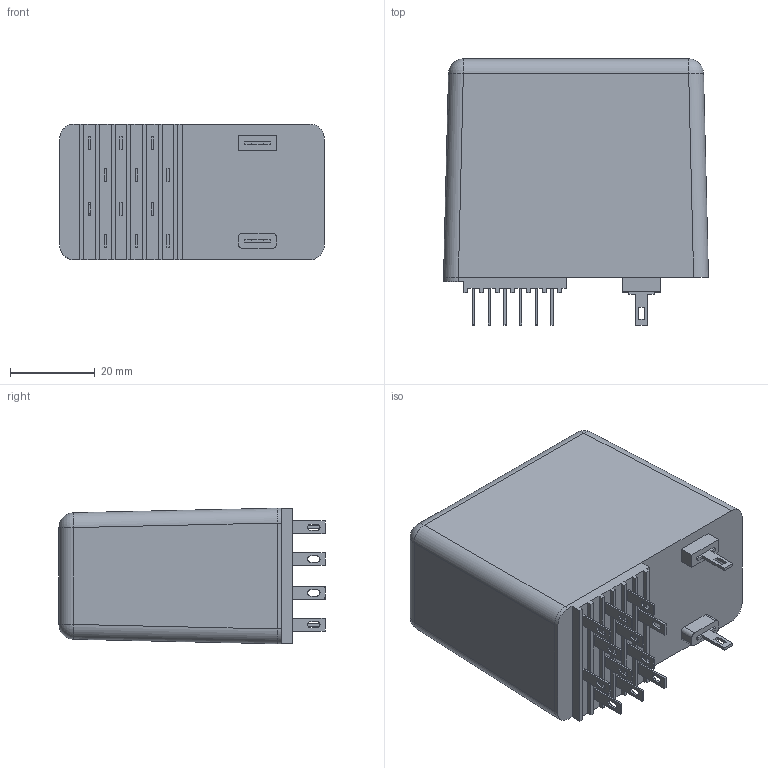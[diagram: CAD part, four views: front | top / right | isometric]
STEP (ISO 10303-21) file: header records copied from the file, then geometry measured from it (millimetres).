
FILE_DESCRIPTION (( 'STEP AP203' ), '1' );
FILE_NAME ('EO4RC3.STEP', '2019-07-05T17:40:55', ( '' ), ( '' ), 'SwSTEP 2.0', 'SolidWorks 2012', '' );
FILE_SCHEMA (( 'CONFIG_CONTROL_DESIGN' ));
Length unit declared in the file: millimetre
Products named in the file (1): EO4RC3
Bounding box: 62.5 x 62.8 x 32 mm (x, y, z)
Volume: 99124.1 mm3; surface area: 14413.6 mm2
Topology: 1 solids, 1 shells, 203 faces, 541 edges, 352 vertices
Faces by surface type: plane 159, cylinder 38, sphere 4, bspline 2
Entity records: 6338 total; most frequent: CARTESIAN_POINT 1125, ORIENTED_EDGE 1074, DIRECTION 1007, EDGE_CURVE 537, VECTOR 459, LINE 459, VERTEX_POINT 352, AXIS2_PLACEMENT_3D 274
